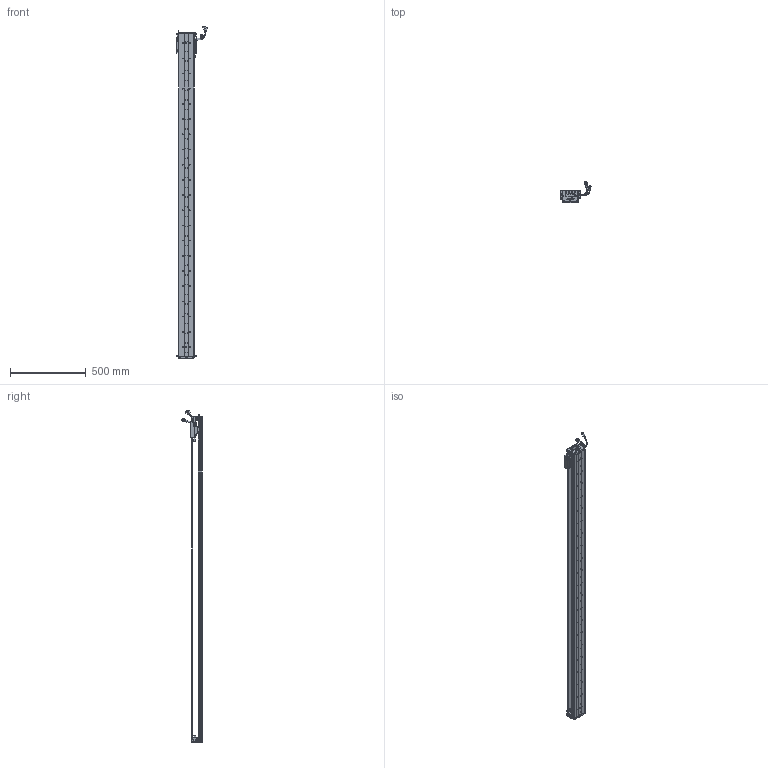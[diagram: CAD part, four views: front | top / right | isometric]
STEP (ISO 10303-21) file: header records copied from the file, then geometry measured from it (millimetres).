
FILE_DESCRIPTION (( 'STEP AP203' ), '1' );
FILE_NAME ('Z1-RY100D-1-L500-B-K.SLDASM_1950.step', '2021-05-17T01:42:58', ( '盈信电脑' ), ( '东莞市道滘镇水果街19号' ), 'SwSTEP 2.0', 'SolidWorks 2016', '' );
FILE_SCHEMA (( 'CONFIG_CONTROL_DESIGN' ));
Length unit declared in the file: millimetre
Products named in the file (36): SEAL; HARNESS-Part-2; COVER-Part-1; SCALE-Part-1; SCREW-M1.7; Z-RY100D詩湍奻揤裔; 榋妏寠巭燃_暯_M2_2; SCREW-M1.6; COVER; 080黍杅芛假蚾釱21遴; Z-RY100D覜茼んえ; SCREW-M1.7-1; HARNESS; SCALE-Part-2; SCREW-M1.6-2; Z-RY100D詩湍狟揤裔; 140雄赽晤鎢ん堤盄; PSLH080_PSLF2; 140蚥薯蝶輸; PBU_SHEET; 覜茼ん672; SCREW-M1.6-1; LABEL; HARNESS-Part-1; SHIELDPLATE; SCREW-M1.6-3; Z1-RY100-L500詩湍90mm遵_1950; SCALE; Z1-RY100D-1-L500-B-K.SLDASM_1950; 100-Z-臏賑輸盄裔(21遴); SEAL-Part-1; HOLDER0; Z1-RY100D-500-倰第菁釱_1950; Z-100詩湍傷裔啣; Z1-RY100铝滑块（21款）; LABEL-Part-1
Assembly tree (44 placements, depth 4):
  Z1-RY100D-1-L500-B-K.SLDASM_1950
    Z1-RY100D-500-倰第菁釱_1950
    Z1-RY100铝滑块（21款）
    PSLH080_PSLF2
      SCALE
        SCALE-Part-1
        SCALE-Part-2
      HARNESS
        HARNESS-Part-1
        HARNESS-Part-2
      LABEL
        LABEL-Part-1
      COVER
        COVER-Part-1
      SEAL
        SEAL-Part-1
      榋妏寠巭燃_暯_M2_2
      SHIELDPLATE
      SCREW-M1.7
      SCREW-M1.7-1
      PBU_SHEET
      SCREW-M1.6
      SCREW-M1.6-1
      SCREW-M1.6-2
      SCREW-M1.6-3
      HOLDER0
    080黍杅芛假蚾釱21遴
    Z-100詩湍傷裔啣  x2
    140蚥薯蝶輸  x2
    覜茼ん672  x4
    Z-RY100D覜茼んえ  x3
    100-Z-臏賑輸盄裔(21遴)
    140雄赽晤鎢ん堤盄
    Z1-RY100-L500詩湍90mm遵_1950
    Z-RY100D詩湍狟揤裔  x2
    Z-RY100D詩湍奻揤裔  x2
Bounding box: 205.84 x 136.11 x 2185.43 mm (x, y, z)
Volume: 3911608.5 mm3; surface area: 1563081.2 mm2
Topology: 39 solids, 39 shells, 2878 faces, 7789 edges, 4976 vertices
Faces by surface type: cylinder 1330, plane 1216, cone 210, torus 69, bspline 53
Entity records: 79345 total; most frequent: CARTESIAN_POINT 16721, DIRECTION 12663, ORIENTED_EDGE 12010, EDGE_CURVE 6005, AXIS2_PLACEMENT_3D 4714, VERTEX_POINT 3884, LINE 3235, VECTOR 3235
